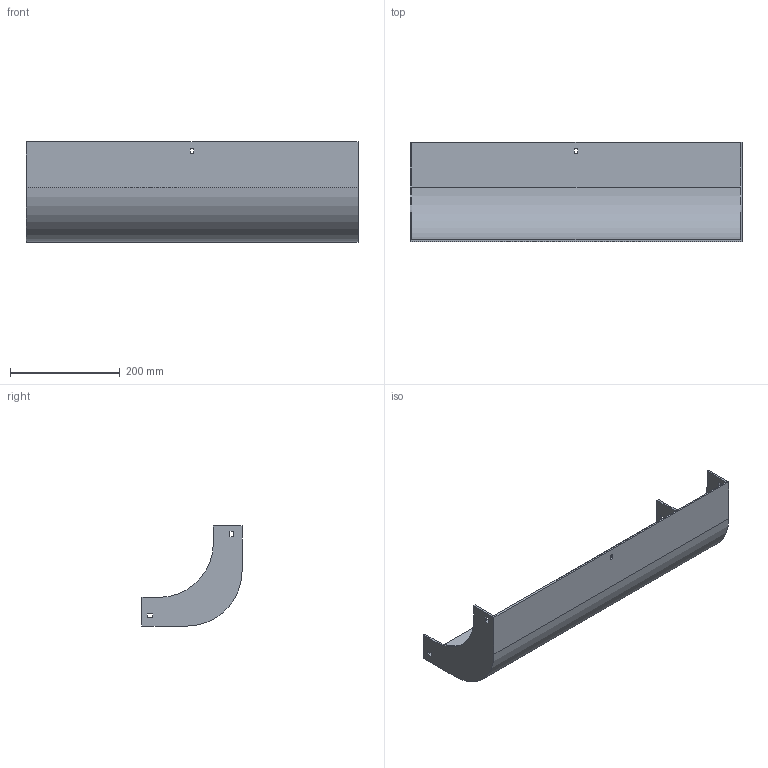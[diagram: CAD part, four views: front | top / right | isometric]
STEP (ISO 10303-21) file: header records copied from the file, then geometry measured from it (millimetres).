
FILE_DESCRIPTION (( 'STEP AP214' ), '1' );
FILE_NAME ('30F1B600.step', '2025-02-21T13:01:54', ( '' ), ( '' ), 'SwSTEP 2.0', 'SolidWorks 2023', '' );
FILE_SCHEMA (( 'AUTOMOTIVE_DESIGN' ));
Length unit declared in the file: millimetre
Products named in the file (1): 30F1B600
Bounding box: 604 x 182 x 182 mm (x, y, z)
Volume: 777330.6 mm3; surface area: 451327.7 mm2
Topology: 1 solids, 1 shells, 42 faces, 120 edges, 80 vertices
Faces by surface type: plane 38, cylinder 4
Entity records: 1399 total; most frequent: CARTESIAN_POINT 243, ORIENTED_EDGE 240, DIRECTION 214, EDGE_CURVE 120, LINE 112, VECTOR 112, VERTEX_POINT 80, EDGE_LOOP 54
